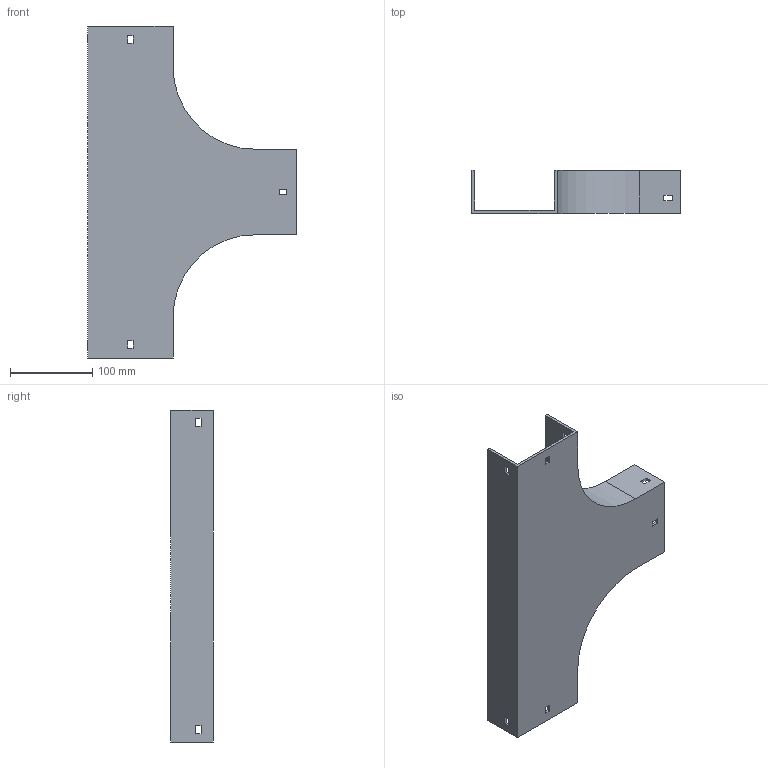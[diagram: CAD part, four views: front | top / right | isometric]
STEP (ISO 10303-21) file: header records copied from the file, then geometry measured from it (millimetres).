
FILE_DESCRIPTION (( 'STEP AP214' ), '1' );
FILE_NAME ('15B1B100.step', '2025-02-21T09:54:06', ( '' ), ( '' ), 'SwSTEP 2.0', 'SolidWorks 2023', '' );
FILE_SCHEMA (( 'AUTOMOTIVE_DESIGN' ));
Length unit declared in the file: millimetre
Products named in the file (1): 15B1B100
Bounding box: 254 x 52 x 404 mm (x, y, z)
Volume: 371384.7 mm3; surface area: 218583.4 mm2
Topology: 1 solids, 1 shells, 58 faces, 168 edges, 112 vertices
Faces by surface type: plane 54, cylinder 4
Entity records: 1939 total; most frequent: CARTESIAN_POINT 339, ORIENTED_EDGE 336, DIRECTION 294, EDGE_CURVE 168, VECTOR 160, LINE 160, VERTEX_POINT 112, EDGE_LOOP 76
